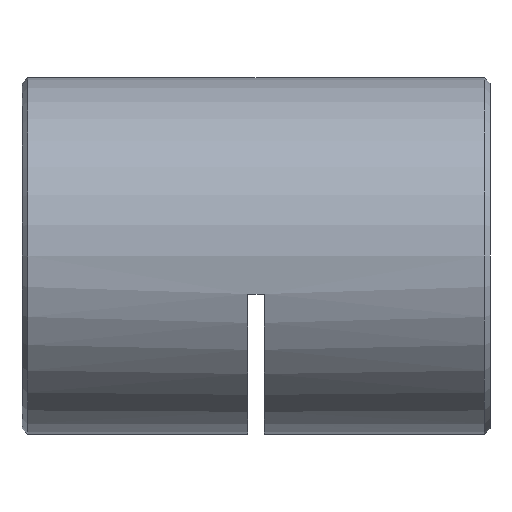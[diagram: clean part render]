
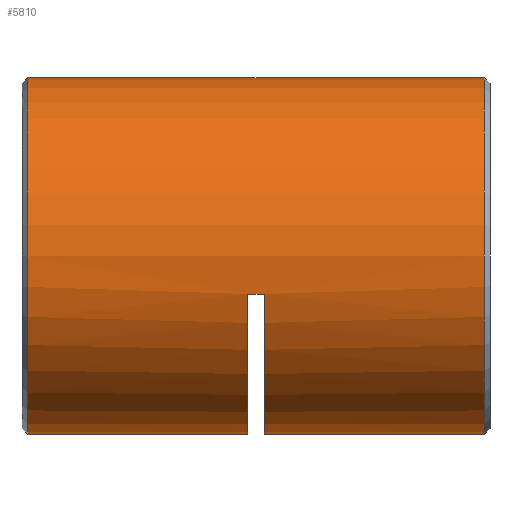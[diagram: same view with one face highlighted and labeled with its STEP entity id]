
A CAD part, left-side view. The second image highlights one B-rep face of the part: STEP entity #5810.
In plain terms, the highlighted cylindrical face has radius 16 mm (diameter 32 mm), a partial arc.
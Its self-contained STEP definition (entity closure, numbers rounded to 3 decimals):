
#119 = VECTOR ( 'NONE', #1365, 1000. ) ;
#136 = ORIENTED_EDGE ( 'NONE', *, *, #2162, .F. ) ;
#224 = ORIENTED_EDGE ( 'NONE', *, *, #3739, .T. ) ;
#280 = CARTESIAN_POINT ( 'NONE',  ( -15.632, 22., -3.413 ) ) ;
#287 = EDGE_CURVE ( 'NONE', #1946, #4625, #5379, .T. ) ;
#453 = FACE_OUTER_BOUND ( 'NONE', #4523, .T. ) ;
#488 = VERTEX_POINT ( 'NONE', #3529 ) ;
#510 = AXIS2_PLACEMENT_3D ( 'NONE', #3702, #5683, #2283 ) ;
#679 = EDGE_CURVE ( 'NONE', #4450, #5496, #5151, .T. ) ;
#854 = CIRCLE ( 'NONE', #2681, 16. ) ;
#891 = AXIS2_PLACEMENT_3D ( 'NONE', #3879, #5326, #5349 ) ;
#1055 = VERTEX_POINT ( 'NONE', #2743 ) ;
#1152 = DIRECTION ( 'NONE',  ( 0., -1., 0. ) ) ;
#1300 = CARTESIAN_POINT ( 'NONE',  ( 0., 42.5, -16. ) ) ;
#1304 = ORIENTED_EDGE ( 'NONE', *, *, #4240, .T. ) ;
#1305 = DIRECTION ( 'NONE',  ( 0., 0., -1. ) ) ;
#1365 = DIRECTION ( 'NONE',  ( 0., -1., 0. ) ) ;
#1428 = ORIENTED_EDGE ( 'NONE', *, *, #287, .F. ) ;
#1447 = LINE ( 'NONE', #1300, #119 ) ;
#1692 = EDGE_CURVE ( 'NONE', #4171, #4625, #1447, .T. ) ;
#1808 = VECTOR ( 'NONE', #5755, 1000. ) ;
#1946 = VERTEX_POINT ( 'NONE', #280 ) ;
#2065 = CARTESIAN_POINT ( 'NONE',  ( 0., 20.5, 0. ) ) ;
#2160 = CARTESIAN_POINT ( 'NONE',  ( 0., 41.75, -16. ) ) ;
#2162 = EDGE_CURVE ( 'NONE', #4507, #5496, #4442, .T. ) ;
#2283 = DIRECTION ( 'NONE',  ( 0., 0., -1. ) ) ;
#2465 = CYLINDRICAL_SURFACE ( 'NONE', #510, 16. ) ;
#2563 = DIRECTION ( 'NONE',  ( 0., 0., -1. ) ) ;
#2572 = DIRECTION ( 'NONE',  ( 0., -1., 0. ) ) ;
#2636 = CARTESIAN_POINT ( 'NONE',  ( 0., 42.5, -16. ) ) ;
#2681 = AXIS2_PLACEMENT_3D ( 'NONE', #2065, #1152, #2563 ) ;
#2743 = CARTESIAN_POINT ( 'NONE',  ( 0., 20.5, -16. ) ) ;
#2791 = VECTOR ( 'NONE', #2572, 1000. ) ;
#2843 = CARTESIAN_POINT ( 'NONE',  ( 0., 42.5, 16. ) ) ;
#2857 = DIRECTION ( 'NONE',  ( 0., -1., 0. ) ) ;
#3069 = CARTESIAN_POINT ( 'NONE',  ( 0., 41.75, 16. ) ) ;
#3304 = ORIENTED_EDGE ( 'NONE', *, *, #3643, .T. ) ;
#3529 = CARTESIAN_POINT ( 'NONE',  ( -15.632, 20.5, -3.413 ) ) ;
#3643 = EDGE_CURVE ( 'NONE', #4507, #4171, #3725, .T. ) ;
#3702 = CARTESIAN_POINT ( 'NONE',  ( 0., 42.5, 0. ) ) ;
#3725 = CIRCLE ( 'NONE', #4335, 16. ) ;
#3739 = EDGE_CURVE ( 'NONE', #1946, #488, #5563, .T. ) ;
#3798 = CARTESIAN_POINT ( 'NONE',  ( 0., 41.75, 0. ) ) ;
#3879 = CARTESIAN_POINT ( 'NONE',  ( 0., 0.75, 0. ) ) ;
#3903 = ORIENTED_EDGE ( 'NONE', *, *, #4097, .T. ) ;
#4097 = EDGE_CURVE ( 'NONE', #1055, #4450, #6168, .T. ) ;
#4107 = VECTOR ( 'NONE', #2857, 1000. ) ;
#4125 = ORIENTED_EDGE ( 'NONE', *, *, #1692, .T. ) ;
#4171 = VERTEX_POINT ( 'NONE', #2160 ) ;
#4238 = DIRECTION ( 'NONE',  ( 0., -1., 0. ) ) ;
#4240 = EDGE_CURVE ( 'NONE', #488, #1055, #854, .T. ) ;
#4335 = AXIS2_PLACEMENT_3D ( 'NONE', #3798, #6253, #4363 ) ;
#4363 = DIRECTION ( 'NONE',  ( 0., 0., -1. ) ) ;
#4442 = LINE ( 'NONE', #2843, #1808 ) ;
#4450 = VERTEX_POINT ( 'NONE', #5469 ) ;
#4507 = VERTEX_POINT ( 'NONE', #3069 ) ;
#4523 = EDGE_LOOP ( 'NONE', ( #136, #3304, #4125, #1428, #224, #1304, #3903, #5462 ) ) ;
#4625 = VERTEX_POINT ( 'NONE', #6047 ) ;
#5151 = CIRCLE ( 'NONE', #891, 16. ) ;
#5326 = DIRECTION ( 'NONE',  ( 0., 1., 0. ) ) ;
#5344 = CARTESIAN_POINT ( 'NONE',  ( -15.632, 21.25, -3.413 ) ) ;
#5349 = DIRECTION ( 'NONE',  ( 0., 0., 1. ) ) ;
#5379 = CIRCLE ( 'NONE', #6115, 16. ) ;
#5462 = ORIENTED_EDGE ( 'NONE', *, *, #679, .T. ) ;
#5469 = CARTESIAN_POINT ( 'NONE',  ( 0., 0.75, -16. ) ) ;
#5496 = VERTEX_POINT ( 'NONE', #5544 ) ;
#5544 = CARTESIAN_POINT ( 'NONE',  ( 0., 0.75, 16. ) ) ;
#5563 = LINE ( 'NONE', #5344, #4107 ) ;
#5683 = DIRECTION ( 'NONE',  ( 0., -1., 0. ) ) ;
#5705 = CARTESIAN_POINT ( 'NONE',  ( 0., 22., 0. ) ) ;
#5755 = DIRECTION ( 'NONE',  ( 0., -1., 0. ) ) ;
#5810 = ADVANCED_FACE ( 'NONE', ( #453 ), #2465, .T. ) ;
#6047 = CARTESIAN_POINT ( 'NONE',  ( 0., 22., -16. ) ) ;
#6115 = AXIS2_PLACEMENT_3D ( 'NONE', #5705, #4238, #1305 ) ;
#6168 = LINE ( 'NONE', #2636, #2791 ) ;
#6253 = DIRECTION ( 'NONE',  ( 0., -1., 0. ) ) ;
